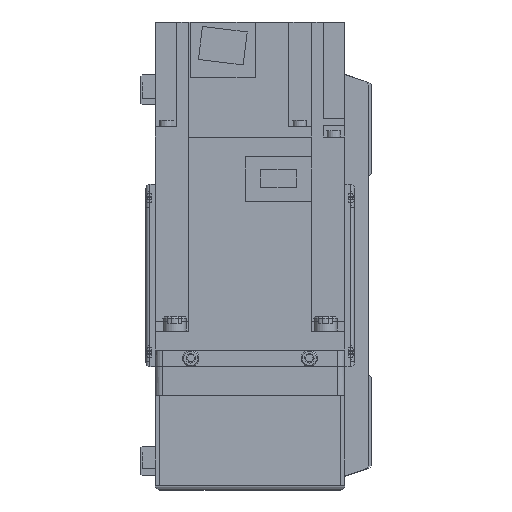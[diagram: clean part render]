
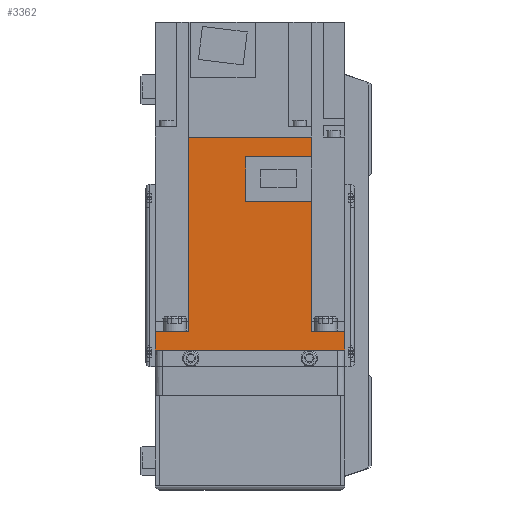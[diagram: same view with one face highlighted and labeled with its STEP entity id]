
A CAD part, left-side view. The second image highlights one B-rep face of the part: STEP entity #3362.
In plain terms, the highlighted planar face has unit normal (-1, 0, 0) as drawn and (1, 0, 0) by its records, which use the part's own axes.
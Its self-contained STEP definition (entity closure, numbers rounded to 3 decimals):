
#3362 = ADVANCED_FACE( '', ( #7023 ), #7024, .F. );
#7023 = FACE_OUTER_BOUND( '', #10703, .T. );
#7024 = PLANE( '', #10704 );
#10703 = EDGE_LOOP( '', ( #20126, #20127, #20128, #20129, #20130, #20131, #20132, #20133, #20134, #20135, #20136, #20137 ) );
#10704 = AXIS2_PLACEMENT_3D( '', #20138, #20139, #20140 );
#20126 = ORIENTED_EDGE( '', *, *, #21071, .F. );
#20127 = ORIENTED_EDGE( '', *, *, #22929, .F. );
#20128 = ORIENTED_EDGE( '', *, *, #23153, .F. );
#20129 = ORIENTED_EDGE( '', *, *, #22445, .T. );
#20130 = ORIENTED_EDGE( '', *, *, #23207, .F. );
#20131 = ORIENTED_EDGE( '', *, *, #23312, .T. );
#20132 = ORIENTED_EDGE( '', *, *, #21681, .T. );
#20133 = ORIENTED_EDGE( '', *, *, #22296, .F. );
#20134 = ORIENTED_EDGE( '', *, *, #24233, .F. );
#20135 = ORIENTED_EDGE( '', *, *, #22930, .F. );
#20136 = ORIENTED_EDGE( '', *, *, #22419, .F. );
#20137 = ORIENTED_EDGE( '', *, *, #22800, .F. );
#20138 = CARTESIAN_POINT( '', ( 40., 89.8, 40. ) );
#20139 = DIRECTION( '', ( -1., 0., 0. ) );
#20140 = DIRECTION( '', ( 0., 0., 1. ) );
#21071 = EDGE_CURVE( '', #25197, #25199, #25200, .T. );
#21681 = EDGE_CURVE( '', #26235, #26233, #26236, .T. );
#22296 = EDGE_CURVE( '', #27240, #26233, #27242, .T. );
#22419 = EDGE_CURVE( '', #27436, #26816, #27437, .T. );
#22445 = EDGE_CURVE( '', #27474, #27472, #27475, .T. );
#22800 = EDGE_CURVE( '', #25199, #27436, #28007, .T. );
#22929 = EDGE_CURVE( '', #28192, #25197, #28194, .T. );
#22930 = EDGE_CURVE( '', #26816, #28195, #28196, .T. );
#23153 = EDGE_CURVE( '', #27474, #28192, #28505, .T. );
#23207 = EDGE_CURVE( '', #28579, #27472, #28581, .T. );
#23312 = EDGE_CURVE( '', #28579, #26235, #28723, .T. );
#24233 = EDGE_CURVE( '', #28195, #27240, #29844, .T. );
#25197 = VERTEX_POINT( '', #31468 );
#25199 = VERTEX_POINT( '', #31471 );
#25200 = LINE( '', #31472, #31473 );
#26233 = VERTEX_POINT( '', #32981 );
#26235 = VERTEX_POINT( '', #32984 );
#26236 = LINE( '', #32985, #32986 );
#26816 = VERTEX_POINT( '', #33925 );
#27240 = VERTEX_POINT( '', #34561 );
#27242 = LINE( '', #34564, #34565 );
#27436 = VERTEX_POINT( '', #34929 );
#27437 = LINE( '', #34930, #34931 );
#27472 = VERTEX_POINT( '', #34979 );
#27474 = VERTEX_POINT( '', #34982 );
#27475 = LINE( '', #34983, #34984 );
#28007 = LINE( '', #35743, #35744 );
#28192 = VERTEX_POINT( '', #36012 );
#28194 = LINE( '', #36015, #36016 );
#28195 = VERTEX_POINT( '', #36017 );
#28196 = LINE( '', #36018, #36019 );
#28505 = LINE( '', #36476, #36477 );
#28579 = VERTEX_POINT( '', #36605 );
#28581 = LINE( '', #36608, #36609 );
#28723 = LINE( '', #36807, #36808 );
#29844 = LINE( '', #38479, #38480 );
#31468 = CARTESIAN_POINT( '', ( 40., 81.4, -25.95 ) );
#31471 = CARTESIAN_POINT( '', ( 40., 81.4, 1.8 ) );
#31472 = CARTESIAN_POINT( '', ( 40., 81.4, -26. ) );
#31473 = VECTOR( '', #39305, 1000. );
#32981 = CARTESIAN_POINT( '', ( 40., 0., -40. ) );
#32984 = CARTESIAN_POINT( '', ( 40., 0., 40. ) );
#32985 = CARTESIAN_POINT( '', ( 40., 0., 40. ) );
#32986 = VECTOR( '', #40121, 1000. );
#33925 = CARTESIAN_POINT( '', ( 40., 62.8, -25.95 ) );
#34561 = CARTESIAN_POINT( '', ( 40., 8., -40. ) );
#34564 = CARTESIAN_POINT( '', ( 40., 89.8, -40. ) );
#34565 = VECTOR( '', #40888, 1000. );
#34929 = CARTESIAN_POINT( '', ( 40., 62.8, 1.8 ) );
#34930 = CARTESIAN_POINT( '', ( 40., 62.8, 1.8 ) );
#34931 = VECTOR( '', #41029, 1000. );
#34979 = CARTESIAN_POINT( '', ( 40., 8., 25.95 ) );
#34982 = CARTESIAN_POINT( '', ( 40., 89.8, 25.95 ) );
#34983 = CARTESIAN_POINT( '', ( 40., 158., 25.95 ) );
#34984 = VECTOR( '', #41053, 1000. );
#35743 = CARTESIAN_POINT( '', ( 40., 81.4, 1.8 ) );
#35744 = VECTOR( '', #41509, 1000. );
#36012 = CARTESIAN_POINT( '', ( 40., 89.8, -25.95 ) );
#36015 = CARTESIAN_POINT( '', ( 40., 158., -25.95 ) );
#36016 = VECTOR( '', #41677, 1000. );
#36017 = CARTESIAN_POINT( '', ( 40., 8., -25.95 ) );
#36018 = CARTESIAN_POINT( '', ( 40., 158., -25.95 ) );
#36019 = VECTOR( '', #41678, 1000. );
#36476 = CARTESIAN_POINT( '', ( 40., 89.8, 40. ) );
#36477 = VECTOR( '', #41944, 1000. );
#36605 = CARTESIAN_POINT( '', ( 40., 8., 40. ) );
#36608 = CARTESIAN_POINT( '', ( 40., 8., 40. ) );
#36609 = VECTOR( '', #42003, 1000. );
#36807 = CARTESIAN_POINT( '', ( 40., 89.8, 40. ) );
#36808 = VECTOR( '', #42133, 1000. );
#38479 = CARTESIAN_POINT( '', ( 40., 8., 40. ) );
#38480 = VECTOR( '', #42981, 1000. );
#39305 = DIRECTION( '', ( 0., 0., 1. ) );
#40121 = DIRECTION( '', ( 0., 0., -1. ) );
#40888 = DIRECTION( '', ( 0., -1., 0. ) );
#41029 = DIRECTION( '', ( 0., 0., -1. ) );
#41053 = DIRECTION( '', ( 0., -1., 0. ) );
#41509 = DIRECTION( '', ( 0., -1., 0. ) );
#41677 = DIRECTION( '', ( 0., -1., 0. ) );
#41678 = DIRECTION( '', ( 0., -1., 0. ) );
#41944 = DIRECTION( '', ( 0., 0., -1. ) );
#42003 = DIRECTION( '', ( 0., 0., -1. ) );
#42133 = DIRECTION( '', ( 0., -1., 0. ) );
#42981 = DIRECTION( '', ( 0., 0., -1. ) );
